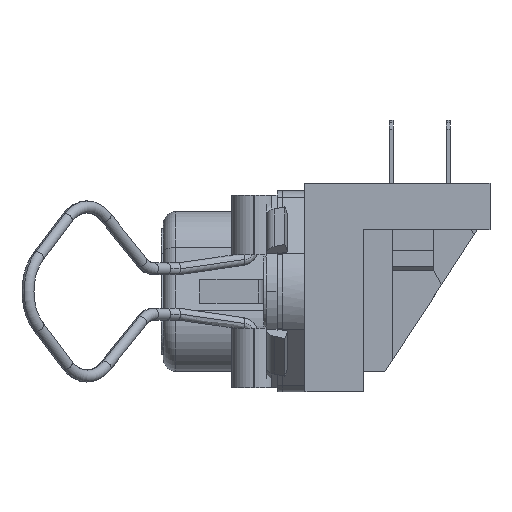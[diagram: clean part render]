
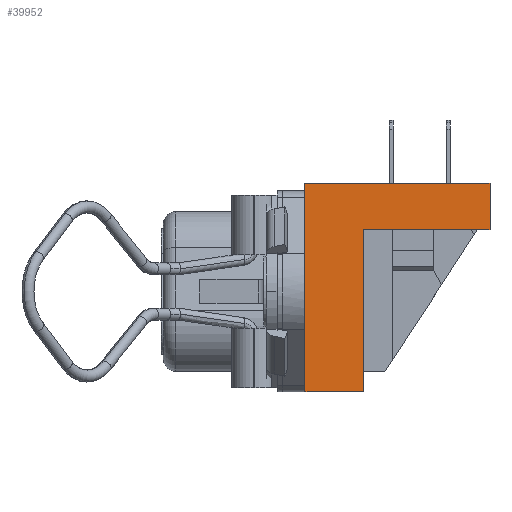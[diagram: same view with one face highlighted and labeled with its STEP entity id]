
A CAD part, left-side view. The second image highlights one B-rep face of the part: STEP entity #39952.
In plain terms, the highlighted planar face has unit normal (-1, 0, 0).
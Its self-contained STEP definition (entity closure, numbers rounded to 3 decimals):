
#1033 = EDGE_LOOP ( 'NONE', ( #35863, #1039, #30506, #32412, #35518, #27835, #24662 ) ) ;
#1039 = ORIENTED_EDGE ( 'NONE', *, *, #29641, .F. ) ;
#4947 = VECTOR ( 'NONE', #32771, 1000. ) ;
#4987 = AXIS2_PLACEMENT_3D ( 'NONE', #27580, #8529, #34522 ) ;
#5717 = CARTESIAN_POINT ( 'NONE',  ( -27.39, 1.2, 8.13 ) ) ;
#7695 = VECTOR ( 'NONE', #41026, 1000. ) ;
#7782 = CARTESIAN_POINT ( 'NONE',  ( -27.39, -12.7, 4.63 ) ) ;
#8529 = DIRECTION ( 'NONE',  ( -1., 0., 0. ) ) ;
#8863 = EDGE_CURVE ( 'NONE', #40527, #26841, #16126, .T. ) ;
#10084 = EDGE_CURVE ( 'NONE', #34393, #12940, #21071, .T. ) ;
#10474 = LINE ( 'NONE', #11737, #4947 ) ;
#10751 = VERTEX_POINT ( 'NONE', #41651 ) ;
#11737 = CARTESIAN_POINT ( 'NONE',  ( -27.39, 1.2, 8.13 ) ) ;
#11745 = CARTESIAN_POINT ( 'NONE',  ( -27.39, 1.2, -7.55 ) ) ;
#12383 = CARTESIAN_POINT ( 'NONE',  ( -27.39, -12.7, -7.55 ) ) ;
#12940 = VERTEX_POINT ( 'NONE', #27615 ) ;
#13501 = EDGE_CURVE ( 'NONE', #30305, #34393, #36998, .T. ) ;
#14363 = VERTEX_POINT ( 'NONE', #23103 ) ;
#15131 = VECTOR ( 'NONE', #31115, 1000. ) ;
#15154 = PLANE ( 'NONE',  #4987 ) ;
#15430 = CARTESIAN_POINT ( 'NONE',  ( -27.39, 1.2, 4.63 ) ) ;
#15741 = LINE ( 'NONE', #20188, #33959 ) ;
#16126 = LINE ( 'NONE', #15430, #15131 ) ;
#16368 = CARTESIAN_POINT ( 'NONE',  ( -27.39, -3.2, 4.63 ) ) ;
#18820 = EDGE_CURVE ( 'NONE', #30305, #14363, #10474, .T. ) ;
#18986 = CARTESIAN_POINT ( 'NONE',  ( -27.39, 1.2, -7.55 ) ) ;
#19453 = VECTOR ( 'NONE', #25358, 1000. ) ;
#20188 = CARTESIAN_POINT ( 'NONE',  ( -27.39, -3.2, -7.55 ) ) ;
#21071 = LINE ( 'NONE', #11745, #25141 ) ;
#21950 = EDGE_CURVE ( 'NONE', #12940, #10751, #24586, .T. ) ;
#23103 = CARTESIAN_POINT ( 'NONE',  ( -27.39, -12.7, 8.13 ) ) ;
#24586 = LINE ( 'NONE', #18986, #41346 ) ;
#24662 = ORIENTED_EDGE ( 'NONE', *, *, #31449, .T. ) ;
#25141 = VECTOR ( 'NONE', #40864, 1000. ) ;
#25358 = DIRECTION ( 'NONE',  ( 0., 0., -1. ) ) ;
#26291 = DIRECTION ( 'NONE',  ( 0., 0., 1. ) ) ;
#26841 = VERTEX_POINT ( 'NONE', #16368 ) ;
#27580 = CARTESIAN_POINT ( 'NONE',  ( -27.39, 1.2, -7.55 ) ) ;
#27615 = CARTESIAN_POINT ( 'NONE',  ( -27.39, 1.2, -7.55 ) ) ;
#27835 = ORIENTED_EDGE ( 'NONE', *, *, #21950, .T. ) ;
#29641 = EDGE_CURVE ( 'NONE', #14363, #40527, #30569, .T. ) ;
#30305 = VERTEX_POINT ( 'NONE', #5717 ) ;
#30506 = ORIENTED_EDGE ( 'NONE', *, *, #18820, .F. ) ;
#30569 = LINE ( 'NONE', #12383, #19453 ) ;
#31115 = DIRECTION ( 'NONE',  ( 0., 1., 0. ) ) ;
#31449 = EDGE_CURVE ( 'NONE', #10751, #26841, #15741, .T. ) ;
#32412 = ORIENTED_EDGE ( 'NONE', *, *, #13501, .T. ) ;
#32771 = DIRECTION ( 'NONE',  ( 0., -1., 0. ) ) ;
#33959 = VECTOR ( 'NONE', #26291, 1000. ) ;
#34393 = VERTEX_POINT ( 'NONE', #40008 ) ;
#34522 = DIRECTION ( 'NONE',  ( 0., 0., -1. ) ) ;
#34656 = CARTESIAN_POINT ( 'NONE',  ( -27.39, 1.2, -7.55 ) ) ;
#35518 = ORIENTED_EDGE ( 'NONE', *, *, #10084, .T. ) ;
#35843 = FACE_OUTER_BOUND ( 'NONE', #1033, .T. ) ;
#35863 = ORIENTED_EDGE ( 'NONE', *, *, #8863, .F. ) ;
#36998 = LINE ( 'NONE', #34656, #7695 ) ;
#38917 = DIRECTION ( 'NONE',  ( 0., -1., 0. ) ) ;
#39952 = ADVANCED_FACE ( 'NONE', ( #35843 ), #15154, .T. ) ;
#40008 = CARTESIAN_POINT ( 'NONE',  ( -27.39, 1.2, 0. ) ) ;
#40527 = VERTEX_POINT ( 'NONE', #7782 ) ;
#40864 = DIRECTION ( 'NONE',  ( 0., 0., -1. ) ) ;
#41026 = DIRECTION ( 'NONE',  ( 0., 0., -1. ) ) ;
#41346 = VECTOR ( 'NONE', #38917, 1000. ) ;
#41651 = CARTESIAN_POINT ( 'NONE',  ( -27.39, -3.2, -7.55 ) ) ;
